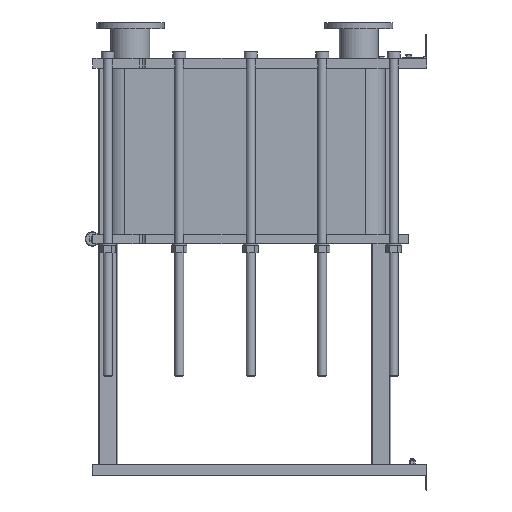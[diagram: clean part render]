
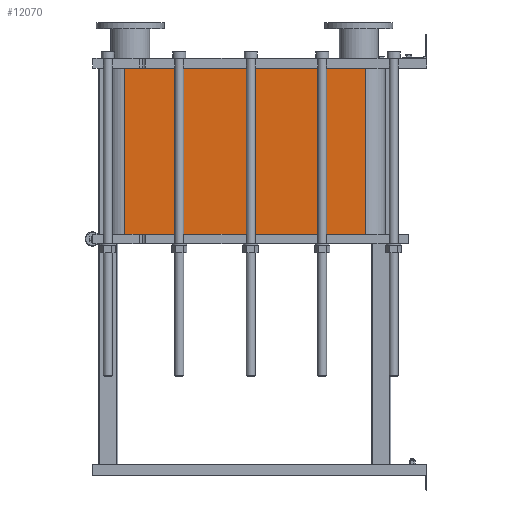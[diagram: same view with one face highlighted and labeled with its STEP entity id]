
A CAD part, left-side view. The second image highlights one B-rep face of the part: STEP entity #12070.
In plain terms, the highlighted planar face has unit normal (-1, 0, 0).
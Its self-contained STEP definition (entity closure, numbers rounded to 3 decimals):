
#1064=LINE('',#21140,#2164);
#1065=LINE('',#21144,#2165);
#1066=LINE('',#21146,#2166);
#1067=LINE('',#21147,#2167);
#2164=VECTOR('',#15790,10.);
#2165=VECTOR('',#15795,10.);
#2166=VECTOR('',#15796,10.);
#2167=VECTOR('',#15797,10.);
#3304=FACE_OUTER_BOUND('',#4091,.T.);
#4091=EDGE_LOOP('',(#9793,#9794,#9795,#9796));
#5677=VERTEX_POINT('',#21137);
#5678=VERTEX_POINT('',#21139);
#5679=VERTEX_POINT('',#21143);
#5680=VERTEX_POINT('',#21145);
#7118=EDGE_CURVE('',#5678,#5677,#1064,.T.);
#7120=EDGE_CURVE('',#5677,#5679,#1065,.T.);
#7121=EDGE_CURVE('',#5680,#5679,#1066,.T.);
#7122=EDGE_CURVE('',#5680,#5678,#1067,.T.);
#9793=ORIENTED_EDGE('',*,*,#7120,.T.);
#9794=ORIENTED_EDGE('',*,*,#7121,.F.);
#9795=ORIENTED_EDGE('',*,*,#7122,.T.);
#9796=ORIENTED_EDGE('',*,*,#7118,.T.);
#11441=PLANE('',#13191);
#12070=ADVANCED_FACE('',(#3304),#11441,.T.);
#13191=AXIS2_PLACEMENT_3D('',#21142,#15793,#15794);
#15790=DIRECTION('',(0.,0.,-1.));
#15793=DIRECTION('center_axis',(-1.,0.,0.));
#15794=DIRECTION('ref_axis',(0.,1.,0.));
#15795=DIRECTION('',(0.,-1.,0.));
#15796=DIRECTION('',(0.,0.,-1.));
#15797=DIRECTION('',(0.,1.,0.));
#21137=CARTESIAN_POINT('',(-248.152,1243.818,-683.1));
#21139=CARTESIAN_POINT('',(-248.152,1243.818,0.));
#21140=CARTESIAN_POINT('',(-248.152,1243.818,0.));
#21142=CARTESIAN_POINT('Origin',(-248.152,251.818,0.));
#21143=CARTESIAN_POINT('',(-248.152,251.818,-683.1));
#21144=CARTESIAN_POINT('',(-248.152,499.818,-683.1));
#21145=CARTESIAN_POINT('',(-248.152,251.818,0.));
#21146=CARTESIAN_POINT('',(-248.152,251.818,0.));
#21147=CARTESIAN_POINT('',(-248.152,251.818,0.));
